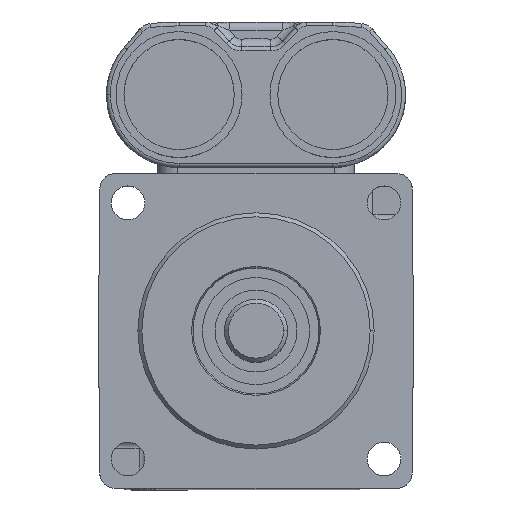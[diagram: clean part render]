
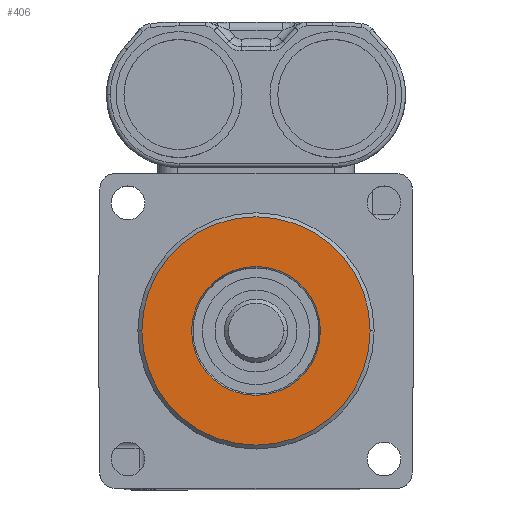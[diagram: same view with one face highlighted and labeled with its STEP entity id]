
A CAD part, top view. The second image highlights one B-rep face of the part: STEP entity #406.
In plain terms, the highlighted planar face has unit normal (0, 0, 1).
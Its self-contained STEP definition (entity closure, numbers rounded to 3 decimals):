
#199 = FACE_OUTER_BOUND ( 'NONE', #5274, .T. ) ;
#406 = ADVANCED_FACE ( 'NONE', ( #199, #8662 ), #11972, .F. ) ;
#1218 = CARTESIAN_POINT ( 'NONE',  ( -8.182, 0., 1.7 ) ) ;
#1533 = VERTEX_POINT ( 'NONE', #19300 ) ;
#1588 = AXIS2_PLACEMENT_3D ( 'NONE', #18315, #18385, #8844 ) ;
#2951 = AXIS2_PLACEMENT_3D ( 'NONE', #12856, #3313, #14452 ) ;
#3313 = DIRECTION ( 'NONE',  ( 0., 0., -1. ) ) ;
#4035 = DIRECTION ( 'NONE',  ( 0., 0., -1. ) ) ;
#4723 = ORIENTED_EDGE ( 'NONE', *, *, #15458, .T. ) ;
#4890 = EDGE_CURVE ( 'NONE', #6996, #9504, #16756, .T. ) ;
#4930 = ORIENTED_EDGE ( 'NONE', *, *, #4890, .T. ) ;
#5274 = EDGE_LOOP ( 'NONE', ( #11426, #14159 ) ) ;
#6498 = DIRECTION ( 'NONE',  ( 0., 0., -1. ) ) ;
#6717 = AXIS2_PLACEMENT_3D ( 'NONE', #16040, #6498, #17614 ) ;
#6996 = VERTEX_POINT ( 'NONE', #12737 ) ;
#8252 = CARTESIAN_POINT ( 'NONE',  ( 0., 0., 1.7 ) ) ;
#8275 = VERTEX_POINT ( 'NONE', #11041 ) ;
#8662 = FACE_BOUND ( 'NONE', #17176, .T. ) ;
#8844 = DIRECTION ( 'NONE',  ( -1., 0., 0. ) ) ;
#9504 = VERTEX_POINT ( 'NONE', #1218 ) ;
#9865 = DIRECTION ( 'NONE',  ( -1., 0., 0. ) ) ;
#10118 = AXIS2_PLACEMENT_3D ( 'NONE', #13575, #4035, #15216 ) ;
#11041 = CARTESIAN_POINT ( 'NONE',  ( -14.5, 0., 1.7 ) ) ;
#11290 = CIRCLE ( 'NONE', #16771, 14.5 ) ;
#11426 = ORIENTED_EDGE ( 'NONE', *, *, #13561, .F. ) ;
#11972 = PLANE ( 'NONE',  #1588 ) ;
#12737 = CARTESIAN_POINT ( 'NONE',  ( 8.182, 0., 1.7 ) ) ;
#12856 = CARTESIAN_POINT ( 'NONE',  ( 0., 0., 1.7 ) ) ;
#13561 = EDGE_CURVE ( 'NONE', #8275, #1533, #11290, .T. ) ;
#13575 = CARTESIAN_POINT ( 'NONE',  ( 0., 0., 1.7 ) ) ;
#14159 = ORIENTED_EDGE ( 'NONE', *, *, #16624, .F. ) ;
#14452 = DIRECTION ( 'NONE',  ( -1., 0., 0. ) ) ;
#15216 = DIRECTION ( 'NONE',  ( -1., 0., 0. ) ) ;
#15458 = EDGE_CURVE ( 'NONE', #9504, #6996, #19112, .T. ) ;
#16040 = CARTESIAN_POINT ( 'NONE',  ( 0., 0., 1.7 ) ) ;
#16624 = EDGE_CURVE ( 'NONE', #1533, #8275, #17010, .T. ) ;
#16756 = CIRCLE ( 'NONE', #6717, 8.182 ) ;
#16771 = AXIS2_PLACEMENT_3D ( 'NONE', #8252, #19409, #9865 ) ;
#17010 = CIRCLE ( 'NONE', #10118, 14.5 ) ;
#17176 = EDGE_LOOP ( 'NONE', ( #4930, #4723 ) ) ;
#17614 = DIRECTION ( 'NONE',  ( -1., 0., 0. ) ) ;
#18315 = CARTESIAN_POINT ( 'NONE',  ( 0., 14.5, 1.7 ) ) ;
#18385 = DIRECTION ( 'NONE',  ( 0., 0., -1. ) ) ;
#19112 = CIRCLE ( 'NONE', #2951, 8.182 ) ;
#19300 = CARTESIAN_POINT ( 'NONE',  ( 14.5, 0., 1.7 ) ) ;
#19409 = DIRECTION ( 'NONE',  ( 0., 0., -1. ) ) ;
